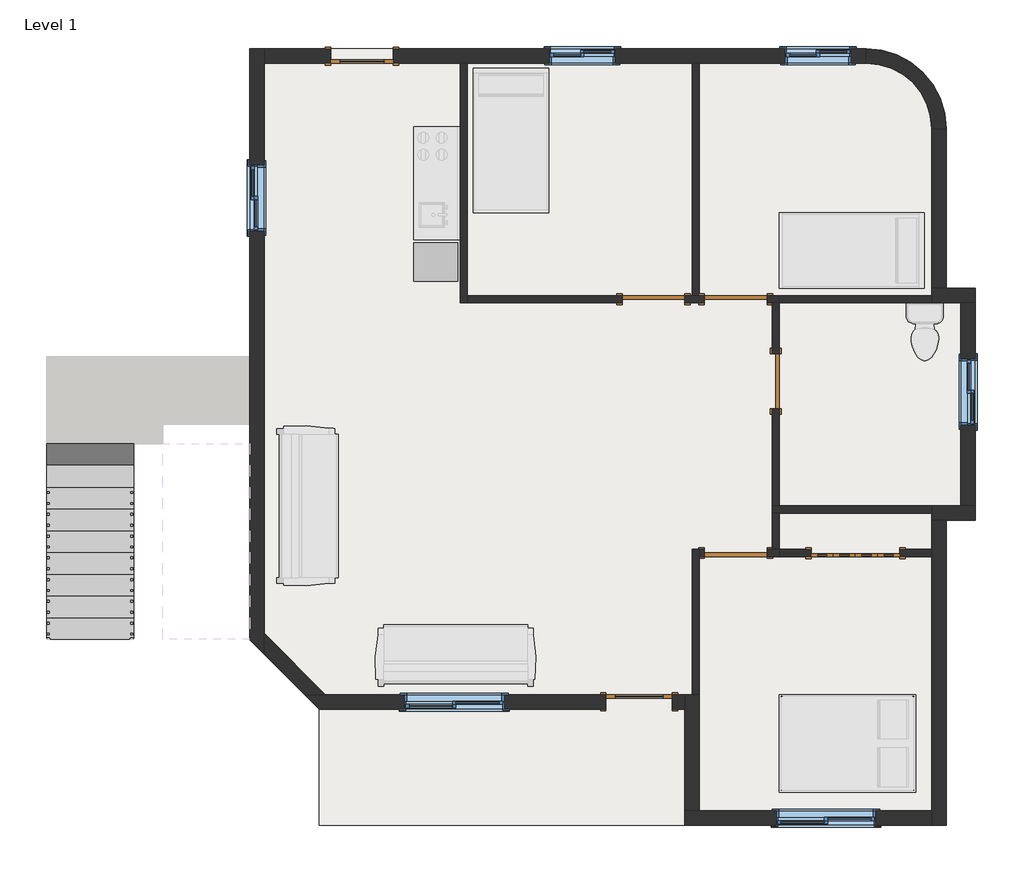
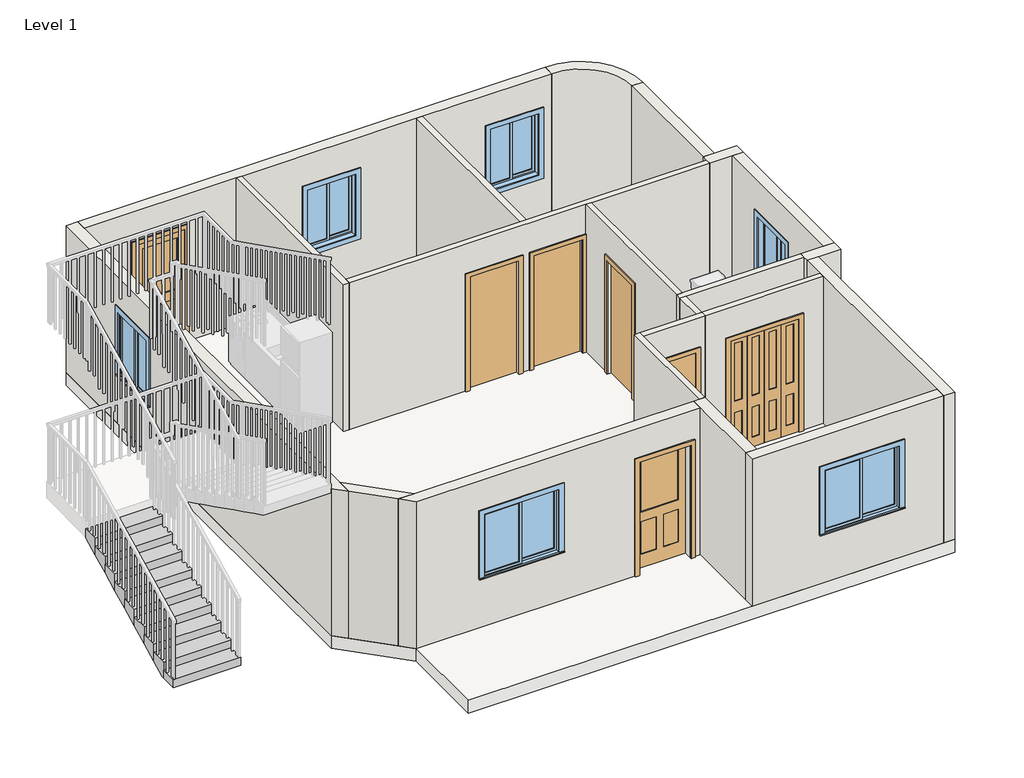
# One storey, part 1 of 4: 21 walls, 7 doors, 6 windows, 1 slab, 1 stair flight.
"""IFC4 building model written with IfcOpenShell, lengths in millimetres."""

from ifc_helpers import new_model, si_unit, point, frame, frame_2d, origin, origin_with_axes, place, context, project, spatial, polyline, circle_curve, trimmed, segment, composite_curve, outline, extrude, faceted_brep, transform, mapped, element, save
from components import m_bifold_4_panel_1220_x_2134mm_c9b228a8, m_single_decorative_1_0864_x_2134mm_a8b8a0d3, m_single_decorative_1_0914_x_2134mm_d79a5f66, m_single_flush_0762_x_2134mm_2f099e9c, m_single_flush_0864_x_2134mm_3838e64d, m_single_flush_0864_x_2134mm_bdbe8edc, m_sliding_with_trim_0915_x_1220mm_c5f69082, m_sliding_with_trim_1372_x_1220mm_1cbd48f5

model = new_model("IFC4")

# Units and contexts
model_context = context("Model", 3, world=origin())
ifc_project = project(units=[si_unit("LENGTHUNIT", "METRE", prefix="MILLI")], contexts=[model_context])

# Site, building, storey
site = spatial("IfcSite", under=ifc_project)
building = spatial("IfcBuilding", under=site)
storey = spatial("IfcBuildingStorey", under=building, Name="Level 1", Elevation=0.0)

# Doors
placement = place(None, origin())
m_bifold_4_panel_1220_x_2134mm_shape = m_bifold_4_panel_1220_x_2134mm_c9b228a8(model_context)
element("IfcDoor", 1, ObjectType="M_Bifold-4 Panel : 1220 x 2134mm", at=placement, inside=storey, context=model_context, shape_type="MappedRepresentation", body=[
    mapped(m_bifold_4_panel_1220_x_2134mm_shape, transform((-9012.9123896, -2705.4324328, 0.0), x_axis=(-1.0, 0.0, 0.0), y_axis=(0.0, -1.0, 0.0), z_axis=(0.0, 0.0, 1.0))),
])
m_single_decorative_1_0864_x_2134mm_shape = m_single_decorative_1_0864_x_2134mm_a8b8a0d3(model_context)
element("IfcDoor", 2, ObjectType="M_Single-Decorative 1 : 0864 x 2134mm", at=placement, inside=storey, context=model_context, shape_type="MappedRepresentation", body=[
    mapped(m_single_decorative_1_0864_x_2134mm_shape, transform((-15812.9123896, 4144.5675672, 0.0), x_axis=(-1.0, 0.0, 0.0), y_axis=(0.0, -1.0, 0.0), z_axis=(0.0, 0.0, 1.0))),
])
m_single_decorative_1_0914_x_2134mm_shape = m_single_decorative_1_0914_x_2134mm_d79a5f66(model_context)
element("IfcDoor", 3, ObjectType="M_Single-Decorative 1 : 0914 x 2134mm", at=placement, inside=storey, context=model_context, shape_type="MappedRepresentation", body=[
    mapped(m_single_decorative_1_0914_x_2134mm_shape, transform((-11994.9123896, -4755.4324328, 0.0), x_axis=(1.0, 0.0, 0.0), y_axis=(0.0, 1.0, 0.0), z_axis=(0.0, 0.0, 1.0))),
])
m_single_flush_0762_x_2134mm_shape = m_single_flush_0762_x_2134mm_2f099e9c(model_context)
element("IfcDoor", 4, ObjectType="M_Single-Flush : 0762 x 2134mm", at=placement, inside=storey, context=model_context, shape_type="MappedRepresentation", body=[
    mapped(m_single_flush_0762_x_2134mm_shape, transform((-10112.9123896, -336.4324328, 0.0), x_axis=(0.0, 1.0, 0.0), y_axis=(-1.0, 0.0, 0.0), z_axis=(0.0, 0.0, 1.0))),
])
m_single_flush_0864_x_2134mm_shape = m_single_flush_0864_x_2134mm_3838e64d(model_context)
element("IfcDoor", 5, ObjectType="M_Single-Flush : 0864 x 2134mm", at=placement, inside=storey, context=model_context, shape_type="MappedRepresentation", body=[
    mapped(m_single_flush_0864_x_2134mm_shape, transform((-10662.9123896, -2705.4324328, 0.0), x_axis=(-1.0, 0.0, 0.0), y_axis=(0.0, -1.0, 0.0), z_axis=(0.0, 0.0, 1.0))),
])
element("IfcDoor", 6, ObjectType="M_Single-Flush : 0864 x 2134mm", at=placement, inside=storey, context=model_context, shape_type="MappedRepresentation", body=[
    mapped(m_single_flush_0864_x_2134mm_shape, transform((-11794.9123896, 794.5675672, 0.0), x_axis=(1.0, 0.0, 0.0), y_axis=(0.0, 1.0, 0.0), z_axis=(0.0, 0.0, 1.0))),
])
m_single_flush_0864_x_2134mm_2_shape = m_single_flush_0864_x_2134mm_bdbe8edc(model_context)
element("IfcDoor", 7, ObjectType="M_Single-Flush : 0864 x 2134mm", at=placement, inside=storey, context=model_context, shape_type="MappedRepresentation", body=[
    mapped(m_single_flush_0864_x_2134mm_2_shape, transform((-10662.9123896, 794.5675672, 0.0), x_axis=(-1.0, 0.0, 0.0), y_axis=(0.0, -1.0, 0.0), z_axis=(0.0, 0.0, 1.0))),
])

# Slab
element("IfcSlab", 8, ObjectType="Standard Timber-Wood Finish", at=placement, inside=storey, context=model_context, shape_type="SweptSolid", body=[
    extrude(outline(composite_curve([segment(polyline([(-7762.9123896, 944.5675672), (-7362.9123896, 944.5675672), (-7362.9123896, -2255.4324328), (-7762.9123896, -2255.4324328), (-7762.9123896, -6455.4324328), (-16404.3337459, -6455.4324328), (-16404.3337459, -4855.4324328), (-17362.9123896, -3896.853789), (-17362.9123896, 4244.5675672), (-8862.9123896, 4244.5675672)]), True, "CONTINUOUS"), segment(trimmed(circle_curve(frame_2d((-8862.9123896, 3144.5675672)), 1100.0), [point((-8862.9123896, 4244.5675672))], [point((-7762.9123896, 3144.5675672))], False, "CARTESIAN"), True, "CONTINUOUS"), segment(polyline([(-7762.9123896, 3144.5675672), (-7762.9123896, 944.5675672)]), True, "CONTINUOUS")], self_intersect=False)), frame((0.0, 0.0, -241.0), z_axis=(0.0, 0.0, 1.0), x_axis=(1.0, 0.0, 0.0)), (0.0, 0.0, 1.0), 241.0),
])

# Stair flight
element("IfcStairFlight", 9, ObjectType="150mm Depth", at=placement, inside=storey, context=model_context, shape_type="Brep", body=[
    faceted_brep([(-20162.9123896, -3596.853789, 150.0), (-20162.9123896, -3896.853789, 150.0), (-18962.9123896, -3896.853789, 150.0), (-18962.9123896, -3596.853789, 150.0), (-20162.9123896, -3596.853789, 0.0), (-20162.9123896, -3896.853789, 0.0), (-18962.9123896, -3896.853789, 0.0), (-18962.9123896, -3596.853789, 0.0), (-20162.9123896, -3296.853789, 300.0), (-20162.9123896, -3596.853789, 300.0), (-18962.9123896, -3596.853789, 300.0), (-18962.9123896, -3296.853789, 300.0), (-20162.9123896, -3296.853789, 132.2949017), (-20162.9123896, -3561.4435924, 0.0), (-18962.9123896, -3561.4435924, 0.0), (-18962.9123896, -3296.853789, 132.2949017), (-20162.9123896, -2996.853789, 450.0), (-20162.9123896, -3296.853789, 450.0), (-18962.9123896, -3296.853789, 450.0), (-18962.9123896, -2996.853789, 450.0), (-20162.9123896, -2996.853789, 282.2949017), (-18962.9123896, -2996.853789, 282.2949017), (-20162.9123896, -2696.853789, 600.0), (-20162.9123896, -2996.853789, 600.0), (-18962.9123896, -2996.853789, 600.0), (-18962.9123896, -2696.853789, 600.0), (-20162.9123896, -2696.853789, 432.2949017), (-18962.9123896, -2696.853789, 432.2949017), (-20162.9123896, -2396.853789, 750.0), (-20162.9123896, -2696.853789, 750.0), (-18962.9123896, -2696.853789, 750.0), (-18962.9123896, -2396.853789, 750.0), (-20162.9123896, -2396.853789, 582.2949017), (-18962.9123896, -2396.853789, 582.2949017), (-20162.9123896, -2096.853789, 900.0), (-20162.9123896, -2396.853789, 900.0), (-18962.9123896, -2396.853789, 900.0), (-18962.9123896, -2096.853789, 900.0), (-20162.9123896, -2096.853789, 732.2949017), (-18962.9123896, -2096.853789, 732.2949017), (-20162.9123896, -1796.853789, 1050.0), (-20162.9123896, -2096.853789, 1050.0), (-18962.9123896, -2096.853789, 1050.0), (-18962.9123896, -1796.853789, 1050.0), (-20162.9123896, -1796.853789, 882.2949017), (-18962.9123896, -1796.853789, 882.2949017), (-20162.9123896, -1496.853789, 1200.0), (-20162.9123896, -1796.853789, 1200.0), (-18962.9123896, -1796.853789, 1200.0), (-18962.9123896, -1496.853789, 1200.0), (-20162.9123896, -1496.853789, 1032.2949017), (-18962.9123896, -1496.853789, 1032.2949017), (-20162.9123896, -1196.853789, 1350.0), (-20162.9123896, -1496.853789, 1350.0), (-18962.9123896, -1496.853789, 1350.0), (-18962.9123896, -1196.853789, 1350.0), (-20162.9123896, -1196.853789, 1182.2949017), (-18962.9123896, -1196.853789, 1182.2949017), (-18962.9123896, -1196.853789, 1200.0)], [[[0, 1, 2, 3]], [[1, 0, 4, 5]], [[2, 1, 5, 6]], [[3, 2, 6, 7]], [[8, 9, 10, 11]], [[4, 0, 9, 8, 12, 13]], [[0, 3, 10, 9]], [[3, 7, 14, 15, 11, 10]], [[16, 17, 18, 19]], [[17, 16, 20, 12, 8]], [[8, 11, 18, 17]], [[19, 18, 11, 15, 21]], [[22, 23, 24, 25]], [[23, 22, 26, 20, 16]], [[16, 19, 24, 23]], [[25, 24, 19, 21, 27]], [[28, 29, 30, 31]], [[29, 28, 32, 26, 22]], [[22, 25, 30, 29]], [[31, 30, 25, 27, 33]], [[34, 35, 36, 37]], [[35, 34, 38, 32, 28]], [[28, 31, 36, 35]], [[37, 36, 31, 33, 39]], [[40, 41, 42, 43]], [[41, 40, 44, 38, 34]], [[34, 37, 42, 41]], [[43, 42, 37, 39, 45]], [[46, 47, 48, 49]], [[47, 46, 50, 44, 40]], [[40, 43, 48, 47]], [[49, 48, 43, 45, 51]], [[52, 53, 54, 55]], [[53, 52, 56, 50, 46]], [[46, 49, 54, 53]], [[55, 54, 49, 51, 57, 58]], [[52, 55, 58, 57, 56]], [[5, 4, 13, 14, 7, 6]], [[14, 13, 12, 20, 26, 32, 38, 44, 50, 56, 57, 51, 45, 39, 33, 27, 21, 15]]]),
])

# Walls
element("IfcWall", 10, ObjectType="Generic - 100mm", at=placement, inside=storey, context=model_context, shape_type="Brep", body=[
    faceted_brep([(-7962.9123896, -2055.4324328, 0.0), (-10062.9123896, -2055.4324328, 0.0), (-10162.9123896, -2055.4324328, 0.0), (-10162.9123896, -2055.4324328, 2759.0), (-10062.9123896, -2055.4324328, 2759.0), (-7962.9123896, -2055.4324328, 2759.0), (-7962.9123896, -2155.4324328, 0.0), (-7962.9123896, -2155.4324328, 2759.0), (-10062.9123896, -2155.4324328, 2759.0), (-10162.9123896, -2155.4324328, 2759.0), (-10162.9123896, -2155.4324328, 0.0), (-10062.9123896, -2155.4324328, 0.0)], [[[0, 1, 2, 3, 4, 5]], [[6, 7, 8, 9, 10, 11]], [[2, 1, 0, 6, 11, 10]], [[0, 5, 7, 6]], [[3, 2, 10, 9]], [[5, 4, 3, 9, 8, 7]]]),
])
element("IfcWall", 11, ObjectType="Generic - 100mm", at=placement, inside=storey, context=model_context, shape_type="Brep", body=[
    faceted_brep([(-11262.9123896, -2655.4324328, 0.0), (-11262.9123896, -4655.4324328, 0.0), (-11262.9123896, -4655.4324328, 2759.0), (-11262.9123896, -2655.4324328, 2759.0), (-11162.9123896, -2655.4324328, 0.0), (-11162.9123896, -2655.4324328, 2759.0), (-11162.9123896, -2755.4324328, 2759.0), (-11162.9123896, -4655.4324328, 2759.0), (-11162.9123896, -4655.4324328, 0.0), (-11162.9123896, -2755.4324328, 0.0)], [[[0, 1, 2, 3]], [[4, 5, 6, 7, 8, 9]], [[1, 0, 4, 9, 8]], [[2, 1, 8, 7]], [[0, 3, 5, 4]], [[3, 2, 7, 6, 5]]]),
])
element("IfcWall", 12, ObjectType="Generic - 100mm", at=placement, inside=storey, context=model_context, shape_type="Brep", body=[
    faceted_brep([(-11094.9123896, -2655.4324328, 2134.0), (-11094.9123896, -2655.4324328, 0.0), (-11162.9123896, -2655.4324328, 0.0), (-11162.9123896, -2655.4324328, 2759.0), (-10162.9123896, -2655.4324328, 2759.0), (-10062.9123896, -2655.4324328, 2759.0), (-10062.9123896, -2655.4324328, 0.0), (-10162.9123896, -2655.4324328, 0.0), (-10230.9123896, -2655.4324328, 0.0), (-10230.9123896, -2655.4324328, 2134.0), (-11162.9123896, -2755.4324328, 0.0), (-11094.9123896, -2755.4324328, 0.0), (-11094.9123896, -2755.4324328, 2134.0), (-10230.9123896, -2755.4324328, 2134.0), (-10230.9123896, -2755.4324328, 0.0), (-10062.9123896, -2755.4324328, 0.0), (-10062.9123896, -2755.4324328, 2759.0), (-11162.9123896, -2755.4324328, 2759.0)], [[[0, 1, 2, 3, 4, 5, 6, 7, 8, 9]], [[10, 11, 12, 13, 14, 15, 16, 17]], [[2, 1, 11, 10]], [[8, 7, 6, 15, 14]], [[3, 2, 10, 17]], [[6, 5, 16, 15]], [[12, 11, 1, 0]], [[13, 12, 0, 9]], [[14, 13, 9, 8]], [[5, 4, 3, 17, 16]]]),
])
element("IfcWall", 13, ObjectType="Generic - 100mm", at=placement, inside=storey, context=model_context, shape_type="SweptSolid", body=[
    extrude(outline(polyline([(-10162.9123896, -2655.4324328), (-10162.9123896, -2155.4324328), (-10062.9123896, -2155.4324328), (-10062.9123896, -2655.4324328), (-10162.9123896, -2655.4324328)])), origin_with_axes(), (0.0, 0.0, 1.0), 2759.0),
])
element("IfcWall", 14, ObjectType="Generic - 100mm", at=placement, inside=storey, context=model_context, shape_type="SweptSolid", body=[
    extrude(outline(polyline([(2759.0, -10062.9123896), (0.0, -10062.9123896), (0.0, -9622.9123896), (2134.0, -9622.9123896), (2134.0, -8402.9123896), (0.0, -8402.9123896), (0.0, -7962.9123896), (2759.0, -7962.9123896), (2759.0, -10062.9123896)])), frame((0.0, -2755.4324328, 0.0), z_axis=(0.0, 1.0, 0.0), x_axis=(0.0, 0.0, 1.0)), (0.0, 0.0, 1.0), 100.0),
])
element("IfcWall", 15, ObjectType="Generic - 100mm", at=placement, inside=storey, context=model_context, shape_type="Brep", body=[
    faceted_brep([(-11094.9123896, 844.5675672, 0.0), (-11162.9123896, 844.5675672, 0.0), (-11262.9123896, 844.5675672, 0.0), (-11362.9123896, 844.5675672, 0.0), (-11362.9123896, 844.5675672, 2134.0), (-12226.9123896, 844.5675672, 2134.0), (-12226.9123896, 844.5675672, 0.0), (-14362.9123896, 844.5675672, 0.0), (-14362.9123896, 844.5675672, 2759.0), (-11262.9123896, 844.5675672, 2759.0), (-11162.9123896, 844.5675672, 2759.0), (-7962.9123896, 844.5675672, 2759.0), (-7962.9123896, 844.5675672, 0.0), (-10230.9123896, 844.5675672, 0.0), (-10230.9123896, 844.5675672, 2134.0), (-11094.9123896, 844.5675672, 2134.0), (-11362.9123896, 744.5675672, 2134.0), (-11362.9123896, 744.5675672, 0.0), (-11094.9123896, 744.5675672, 0.0), (-11094.9123896, 744.5675672, 2134.0), (-10230.9123896, 744.5675672, 2134.0), (-10230.9123896, 744.5675672, 0.0), (-10162.9123896, 744.5675672, 0.0), (-10062.9123896, 744.5675672, 0.0), (-7962.9123896, 744.5675672, 0.0), (-7962.9123896, 744.5675672, 2759.0), (-10062.9123896, 744.5675672, 2759.0), (-10162.9123896, 744.5675672, 2759.0), (-14362.9123896, 744.5675672, 2759.0), (-14362.9123896, 744.5675672, 0.0), (-12226.9123896, 744.5675672, 0.0), (-12226.9123896, 744.5675672, 2134.0)], [[[0, 1, 2, 3, 4, 5, 6, 7, 8, 9, 10, 11, 12, 13, 14, 15]], [[16, 17, 18, 19, 20, 21, 22, 23, 24, 25, 26, 27, 28, 29, 30, 31]], [[13, 12, 24, 23, 22, 21]], [[30, 29, 7, 6]], [[18, 17, 3, 2, 1, 0]], [[12, 11, 25, 24]], [[8, 7, 29, 28]], [[19, 18, 0, 15]], [[20, 19, 15, 14]], [[21, 20, 14, 13]], [[4, 3, 17, 16]], [[5, 4, 16, 31]], [[6, 5, 31, 30]], [[11, 10, 9, 8, 28, 27, 26, 25]]]),
])
element("IfcWall", 16, ObjectType="Generic - 100mm", at=placement, inside=storey, context=model_context, shape_type="SweptSolid", body=[
    extrude(outline(polyline([(744.5675672, 0.0), (44.5675672, 0.0), (44.5675672, 2134.0), (-717.4324328, 2134.0), (-717.4324328, 0.0), (-2055.4324328, 0.0), (-2055.4324328, 2759.0), (744.5675672, 2759.0), (744.5675672, 0.0)])), frame((-10162.9123896, 0.0, 0.0), z_axis=(1.0, 0.0, 0.0), x_axis=(0.0, 1.0, 0.0)), (0.0, 0.0, 1.0), 100.0),
])
element("IfcWall", 17, ObjectType="Generic - 100mm", at=placement, inside=storey, context=model_context, shape_type="Brep", body=[
    faceted_brep([(-14462.9123896, 4044.5675672, 0.0), (-14462.9123896, 744.5675672, 0.0), (-14462.9123896, 744.5675672, 2759.0), (-14462.9123896, 4044.5675672, 2759.0), (-14362.9123896, 4044.5675672, 0.0), (-14362.9123896, 4044.5675672, 2759.0), (-14362.9123896, 844.5675672, 2759.0), (-14362.9123896, 744.5675672, 2759.0), (-14362.9123896, 744.5675672, 0.0), (-14362.9123896, 844.5675672, 0.0)], [[[0, 1, 2, 3]], [[4, 5, 6, 7, 8, 9]], [[1, 0, 4, 9, 8]], [[0, 3, 5, 4]], [[2, 1, 8, 7]], [[3, 2, 7, 6, 5]]]),
])
element("IfcWall", 18, ObjectType="Generic - 100mm", at=placement, inside=storey, context=model_context, shape_type="SweptSolid", body=[
    extrude(outline(polyline([(-11262.9123896, 844.5675672), (-11262.9123896, 4044.5675672), (-11162.9123896, 4044.5675672), (-11162.9123896, 844.5675672), (-11262.9123896, 844.5675672)])), origin_with_axes(), (0.0, 0.0, 1.0), 2759.0),
])
element("IfcWall", 19, ObjectType="Generic - 200mm", at=placement, inside=storey, context=model_context, shape_type="Brep", body=[
    faceted_brep([(-17162.9123896, -4096.853789, 0.0), (-17162.9123896, -3814.0110766, 0.0), (-17162.9123896, 4044.5675672, 0.0), (-17162.9123896, 4244.5675672, 0.0), (-17162.9123896, 4244.5675672, 2759.0), (-17162.9123896, 4044.5675672, 2759.0), (-17162.9123896, -3814.0110766, 2759.0), (-17162.9123896, -4096.853789, 2759.0), (-17162.9123896, 2644.5675672, 2135.0), (-17162.9123896, 2644.5675672, 915.0), (-17162.9123896, 1729.5675672, 915.0), (-17162.9123896, 1729.5675672, 2135.0), (-17362.9123896, -3896.853789, 0.0), (-17362.9123896, -3896.853789, 2759.0), (-17362.9123896, 4244.5675672, 2759.0), (-17362.9123896, 4244.5675672, 0.0), (-17362.9123896, 2644.5675672, 2135.0), (-17362.9123896, 1729.5675672, 2135.0), (-17362.9123896, 1729.5675672, 915.0), (-17362.9123896, 2644.5675672, 915.0)], [[[0, 1, 2, 3, 4, 5, 6, 7], [8, 9, 10, 11]], [[12, 13, 14, 15], [16, 17, 18, 19]], [[3, 2, 1, 0, 12, 15]], [[4, 3, 15, 14]], [[9, 8, 16, 19]], [[10, 9, 19, 18]], [[11, 10, 18, 17]], [[8, 11, 17, 16]], [[0, 7, 13, 12]], [[7, 6, 5, 4, 14, 13]]]),
])
element("IfcWall", 20, ObjectType="Generic - 200mm", at=placement, inside=storey, context=model_context, shape_type="Brep", body=[
    faceted_brep([(-8862.9123896, 4044.5675672, 0.0), (-8862.9123896, 4044.5675672, 2759.0), (-11162.9123896, 4044.5675672, 2759.0), (-11262.9123896, 4044.5675672, 2759.0), (-14362.9123896, 4044.5675672, 2759.0), (-14462.9123896, 4044.5675672, 2759.0), (-17162.9123896, 4044.5675672, 2759.0), (-17162.9123896, 4044.5675672, 0.0), (-16244.9123896, 4044.5675672, 0.0), (-16244.9123896, 4044.5675672, 2134.0), (-15380.9123896, 4044.5675672, 2134.0), (-15380.9123896, 4044.5675672, 0.0), (-14462.9123896, 4044.5675672, 0.0), (-14362.9123896, 4044.5675672, 0.0), (-11262.9123896, 4044.5675672, 0.0), (-11162.9123896, 4044.5675672, 0.0), (-9070.4373896, 4044.5675672, 2135.0), (-9070.4373896, 4044.5675672, 915.0), (-9985.4373896, 4044.5675672, 915.0), (-9985.4373896, 4044.5675672, 2135.0), (-12320.4373896, 4044.5675672, 2135.0), (-12320.4373896, 4044.5675672, 915.0), (-13235.4373896, 4044.5675672, 915.0), (-13235.4373896, 4044.5675672, 2135.0), (-8862.9123896, 4244.5675672, 2759.0), (-8862.9123896, 4244.5675672, 0.0), (-15380.9123896, 4244.5675672, 0.0), (-15380.9123896, 4244.5675672, 2134.0), (-16244.9123896, 4244.5675672, 2134.0), (-16244.9123896, 4244.5675672, 0.0), (-17162.9123896, 4244.5675672, 0.0), (-17162.9123896, 4244.5675672, 2759.0), (-9070.4373896, 4244.5675672, 2135.0), (-9985.4373896, 4244.5675672, 2135.0), (-9985.4373896, 4244.5675672, 915.0), (-9070.4373896, 4244.5675672, 915.0), (-12320.4373896, 4244.5675672, 2135.0), (-13235.4373896, 4244.5675672, 2135.0), (-13235.4373896, 4244.5675672, 915.0), (-12320.4373896, 4244.5675672, 915.0)], [[[0, 1, 2, 3, 4, 5, 6, 7, 8, 9, 10, 11, 12, 13, 14, 15], [16, 17, 18, 19], [20, 21, 22, 23]], [[24, 25, 26, 27, 28, 29, 30, 31], [32, 33, 34, 35], [36, 37, 38, 39]], [[7, 30, 29, 8]], [[25, 0, 15, 14, 13, 12, 11, 26]], [[1, 0, 25, 24]], [[7, 6, 31, 30]], [[28, 9, 8, 29]], [[9, 28, 27, 10]], [[10, 27, 26, 11]], [[17, 16, 32, 35]], [[18, 17, 35, 34]], [[19, 18, 34, 33]], [[16, 19, 33, 32]], [[21, 20, 36, 39]], [[22, 21, 39, 38]], [[23, 22, 38, 37]], [[20, 23, 37, 36]], [[6, 5, 4, 3, 2, 1, 24, 31]]]),
])
element("IfcWall", 21, ObjectType="Generic - 200mm", at=placement, inside=storey, context=model_context, shape_type="SweptSolid", body=[
    extrude(outline(polyline([(-7962.9123896, 944.5675672), (-7962.9123896, 3144.5675672), (-7762.9123896, 3144.5675672), (-7762.9123896, 944.5675672), (-7962.9123896, 944.5675672)])), origin_with_axes(), (0.0, 0.0, 1.0), 2759.0),
])
element("IfcWall", 22, ObjectType="Generic - 200mm", at=placement, inside=storey, context=model_context, shape_type="Brep", body=[
    faceted_brep([(-7962.9123896, 744.5675672, 0.0), (-7562.9123896, 744.5675672, 0.0), (-7362.9123896, 744.5675672, 0.0), (-7362.9123896, 744.5675672, 2759.0), (-7562.9123896, 744.5675672, 2759.0), (-7962.9123896, 744.5675672, 2759.0), (-7962.9123896, 944.5675672, 0.0), (-7962.9123896, 944.5675672, 2759.0), (-7762.9123896, 944.5675672, 2759.0), (-7362.9123896, 944.5675672, 2759.0), (-7362.9123896, 944.5675672, 0.0), (-7762.9123896, 944.5675672, 0.0), (-7962.9123896, 844.5675672, 0.0), (-7962.9123896, 844.5675672, 2759.0)], [[[0, 1, 2, 3, 4, 5]], [[6, 7, 8, 9, 10, 11]], [[2, 1, 0, 12, 6, 11, 10]], [[0, 5, 13, 7, 6, 12]], [[3, 2, 10, 9]], [[5, 4, 3, 9, 8, 7, 13]]]),
])
element("IfcWall", 23, ObjectType="Generic - 200mm", at=placement, inside=storey, context=model_context, shape_type="SweptSolid", body=[
    extrude(outline(polyline([(744.5675672, 0.0), (-2055.4324328, 0.0), (-2055.4324328, 2759.0), (744.5675672, 2759.0), (744.5675672, 0.0)]), holes=[polyline([(-940.3824328, 2135.0), (-940.3824328, 915.0), (-25.3824328, 915.0), (-25.3824328, 2135.0), (-940.3824328, 2135.0)])]), frame((-7562.9123896, 0.0, 0.0), z_axis=(1.0, 0.0, 0.0), x_axis=(0.0, 1.0, 0.0)), (0.0, 0.0, 1.0), 200.0),
])
element("IfcWall", 24, ObjectType="Generic - 200mm", at=placement, inside=storey, context=model_context, shape_type="Brep", body=[
    faceted_brep([(-7362.9123896, -2055.4324328, 0.0), (-7562.9123896, -2055.4324328, 0.0), (-7962.9123896, -2055.4324328, 0.0), (-7962.9123896, -2055.4324328, 2759.0), (-7562.9123896, -2055.4324328, 2759.0), (-7362.9123896, -2055.4324328, 2759.0), (-7362.9123896, -2255.4324328, 0.0), (-7362.9123896, -2255.4324328, 2759.0), (-7762.9123896, -2255.4324328, 2759.0), (-7962.9123896, -2255.4324328, 2759.0), (-7962.9123896, -2255.4324328, 0.0), (-7762.9123896, -2255.4324328, 0.0), (-7962.9123896, -2155.4324328, 0.0), (-7962.9123896, -2155.4324328, 2759.0)], [[[0, 1, 2, 3, 4, 5]], [[6, 7, 8, 9, 10, 11]], [[2, 1, 0, 6, 11, 10, 12]], [[0, 5, 7, 6]], [[3, 2, 12, 10, 9, 13]], [[5, 4, 3, 13, 9, 8, 7]]]),
])
element("IfcWall", 25, ObjectType="Generic - 200mm", at=placement, inside=storey, context=model_context, shape_type="Brep", body=[
    faceted_brep([(-7962.9123896, -2255.4324328, 0.0), (-7962.9123896, -2655.4324328, 0.0), (-7962.9123896, -2755.4324328, 0.0), (-7962.9123896, -6255.4324328, 0.0), (-7962.9123896, -6455.4324328, 0.0), (-7962.9123896, -6455.4324328, 2759.0), (-7962.9123896, -6255.4324328, 2759.0), (-7962.9123896, -2755.4324328, 2759.0), (-7962.9123896, -2655.4324328, 2759.0), (-7962.9123896, -2255.4324328, 2759.0), (-7762.9123896, -2255.4324328, 0.0), (-7762.9123896, -2255.4324328, 2759.0), (-7762.9123896, -6455.4324328, 2759.0), (-7762.9123896, -6455.4324328, 0.0)], [[[0, 1, 2, 3, 4, 5, 6, 7, 8, 9]], [[10, 11, 12, 13]], [[4, 3, 2, 1, 0, 10, 13]], [[0, 9, 11, 10]], [[5, 4, 13, 12]], [[9, 8, 7, 6, 5, 12, 11]]]),
])
element("IfcWall", 26, ObjectType="Generic - 200mm", at=placement, inside=storey, context=model_context, shape_type="Brep", body=[
    faceted_brep([(-7962.9123896, -6255.4324328, 0.0), (-11162.9123896, -6255.4324328, 0.0), (-11362.9123896, -6255.4324328, 0.0), (-11362.9123896, -6255.4324328, 2759.0), (-11162.9123896, -6255.4324328, 2759.0), (-7962.9123896, -6255.4324328, 2759.0), (-10104.8623896, -6255.4324328, 2135.0), (-10104.8623896, -6255.4324328, 915.0), (-8732.8623896, -6255.4324328, 915.0), (-8732.8623896, -6255.4324328, 2135.0), (-7962.9123896, -6455.4324328, 0.0), (-7962.9123896, -6455.4324328, 2759.0), (-11362.9123896, -6455.4324328, 2759.0), (-11362.9123896, -6455.4324328, 0.0), (-10104.8623896, -6455.4324328, 2135.0), (-8732.8623896, -6455.4324328, 2135.0), (-8732.8623896, -6455.4324328, 915.0), (-10104.8623896, -6455.4324328, 915.0)], [[[0, 1, 2, 3, 4, 5], [6, 7, 8, 9]], [[10, 11, 12, 13], [14, 15, 16, 17]], [[2, 1, 0, 10, 13]], [[0, 5, 11, 10]], [[3, 2, 13, 12]], [[7, 6, 14, 17]], [[8, 7, 17, 16]], [[9, 8, 16, 15]], [[6, 9, 15, 14]], [[5, 4, 3, 12, 11]]]),
])
element("IfcWall", 27, ObjectType="Generic - 200mm", at=placement, inside=storey, context=model_context, shape_type="Brep", body=[
    faceted_brep([(-11162.9123896, -6255.4324328, 0.0), (-11162.9123896, -4655.4324328, 0.0), (-11162.9123896, -4655.4324328, 2759.0), (-11162.9123896, -6255.4324328, 2759.0), (-11362.9123896, -6255.4324328, 0.0), (-11362.9123896, -6255.4324328, 2759.0), (-11362.9123896, -4855.4324328, 2759.0), (-11362.9123896, -4655.4324328, 2759.0), (-11362.9123896, -4655.4324328, 0.0), (-11362.9123896, -4855.4324328, 0.0), (-11262.9123896, -4655.4324328, 0.0), (-11262.9123896, -4655.4324328, 2759.0)], [[[0, 1, 2, 3]], [[4, 5, 6, 7, 8, 9]], [[1, 0, 4, 9, 8, 10]], [[0, 3, 5, 4]], [[2, 1, 10, 8, 7, 11]], [[3, 2, 11, 7, 6, 5]]]),
])
element("IfcWall", 28, ObjectType="Generic - 200mm", at=placement, inside=storey, context=model_context, shape_type="Brep", body=[
    faceted_brep([(-11362.9123896, -4655.4324328, 2759.0), (-11362.9123896, -4655.4324328, 0.0), (-11537.9123896, -4655.4324328, 0.0), (-11537.9123896, -4655.4324328, 2134.0), (-12451.9123896, -4655.4324328, 2134.0), (-12451.9123896, -4655.4324328, 0.0), (-16321.4910334, -4655.4324328, 0.0), (-16604.3337459, -4655.4324328, 0.0), (-16604.3337459, -4655.4324328, 2759.0), (-16321.4910334, -4655.4324328, 2759.0), (-15228.3873896, -4655.4324328, 2135.0), (-15228.3873896, -4655.4324328, 915.0), (-13856.3873896, -4655.4324328, 915.0), (-13856.3873896, -4655.4324328, 2135.0), (-11362.9123896, -4855.4324328, 0.0), (-11362.9123896, -4855.4324328, 2759.0), (-16404.3337459, -4855.4324328, 2759.0), (-16404.3337459, -4855.4324328, 0.0), (-12451.9123896, -4855.4324328, 0.0), (-12451.9123896, -4855.4324328, 2134.0), (-11537.9123896, -4855.4324328, 2134.0), (-11537.9123896, -4855.4324328, 0.0), (-15228.3873896, -4855.4324328, 2135.0), (-13856.3873896, -4855.4324328, 2135.0), (-13856.3873896, -4855.4324328, 915.0), (-15228.3873896, -4855.4324328, 915.0)], [[[0, 1, 2, 3, 4, 5, 6, 7, 8, 9], [10, 11, 12, 13]], [[14, 15, 16, 17, 18, 19, 20, 21], [22, 23, 24, 25]], [[1, 14, 21, 2]], [[17, 7, 6, 5, 18]], [[20, 3, 2, 21]], [[3, 20, 19, 4]], [[4, 19, 18, 5]], [[11, 10, 22, 25]], [[12, 11, 25, 24]], [[13, 12, 24, 23]], [[10, 13, 23, 22]], [[1, 0, 15, 14]], [[8, 7, 17, 16]], [[0, 9, 8, 16, 15]]]),
])
element("IfcWall", 29, ObjectType="Generic - 200mm", at=placement, inside=storey, context=model_context, shape_type="SweptSolid", body=[
    extrude(outline(composite_curve([segment(polyline([(-8862.9123896, 4044.5675672), (-8862.9123896, 4244.5675672)]), True, "CONTINUOUS"), segment(trimmed(circle_curve(frame_2d((-8862.9123896, 3144.5675672)), 1100.0), [point((-8862.9123896, 4244.5675672))], [point((-7762.9123896, 3144.5675672))], False, "CARTESIAN"), True, "CONTINUOUS"), segment(polyline([(-7762.9123896, 3144.5675672), (-7962.9123896, 3144.5675672)]), True, "CONTINUOUS"), segment(trimmed(circle_curve(frame_2d((-8862.9123896, 3144.5675672)), 900.0), [point((-7962.9123896, 3144.5675672))], [point((-8862.9123896, 4044.5675672))], True, "CARTESIAN"), True, "CONTINUOUS")], self_intersect=False)), origin_with_axes(), (0.0, 0.0, 1.0), 2759.0),
])
element("IfcWall", 30, ObjectType="Generic - 200mm", at=placement, inside=storey, context=model_context, shape_type="SweptSolid", body=[
    extrude(outline(polyline([(-17162.9123896, -3814.0110766), (-16321.4910334, -4655.4324328), (-16604.3337459, -4655.4324328), (-17162.9123896, -4096.853789), (-17162.9123896, -3814.0110766)])), origin_with_axes(), (0.0, 0.0, 1.0), 2759.0),
])

# Windows
m_sliding_with_trim_0915_x_1220mm_shape = m_sliding_with_trim_0915_x_1220mm_c5f69082(model_context)
element("IfcWindow", 31, ObjectType="M_Sliding with Trim : 0915 x 1220mm", at=placement, inside=storey, context=model_context, shape_type="MappedRepresentation", body=[
    mapped(m_sliding_with_trim_0915_x_1220mm_shape, transform((-7462.9123896, -482.8824328, 0.0), x_axis=(0.0, -1.0, 0.0), y_axis=(1.0, 0.0, 0.0), z_axis=(0.0, 0.0, 1.0))),
])
element("IfcWindow", 32, ObjectType="M_Sliding with Trim : 0915 x 1220mm", at=placement, inside=storey, context=model_context, shape_type="MappedRepresentation", body=[
    mapped(m_sliding_with_trim_0915_x_1220mm_shape, transform((-9527.9373896, 4144.5675672, 0.0), x_axis=(1.0, 0.0, 0.0), y_axis=(0.0, 1.0, 0.0), z_axis=(0.0, 0.0, 1.0))),
])
element("IfcWindow", 33, ObjectType="M_Sliding with Trim : 0915 x 1220mm", at=placement, inside=storey, context=model_context, shape_type="MappedRepresentation", body=[
    mapped(m_sliding_with_trim_0915_x_1220mm_shape, transform((-12777.9373896, 4144.5675672, 0.0), x_axis=(1.0, 0.0, 0.0), y_axis=(0.0, 1.0, 0.0), z_axis=(0.0, 0.0, 1.0))),
])
element("IfcWindow", 34, ObjectType="M_Sliding with Trim : 0915 x 1220mm", at=placement, inside=storey, context=model_context, shape_type="MappedRepresentation", body=[
    mapped(m_sliding_with_trim_0915_x_1220mm_shape, transform((-17262.9123896, 2187.0675672, 0.0), x_axis=(0.0, 1.0, 0.0), y_axis=(-1.0, 0.0, 0.0), z_axis=(0.0, 0.0, 1.0))),
])
m_sliding_with_trim_1372_x_1220mm_shape = m_sliding_with_trim_1372_x_1220mm_1cbd48f5(model_context)
element("IfcWindow", 35, ObjectType="M_Sliding with Trim : 1372 x 1220mm", at=placement, inside=storey, context=model_context, shape_type="MappedRepresentation", body=[
    mapped(m_sliding_with_trim_1372_x_1220mm_shape, transform((-14542.3873896, -4755.4324328, 0.0), x_axis=(-1.0, 0.0, 0.0), y_axis=(0.0, -1.0, 0.0), z_axis=(0.0, 0.0, 1.0))),
])
element("IfcWindow", 36, ObjectType="M_Sliding with Trim : 1372 x 1220mm", at=placement, inside=storey, context=model_context, shape_type="MappedRepresentation", body=[
    mapped(m_sliding_with_trim_1372_x_1220mm_shape, transform((-9418.8623896, -6355.4324328, 0.0), x_axis=(-1.0, 0.0, 0.0), y_axis=(0.0, -1.0, 0.0), z_axis=(0.0, 0.0, 1.0))),
])

save(model, "model.ifc")
